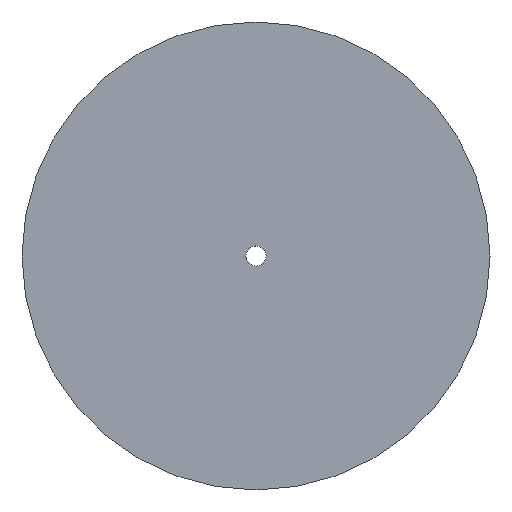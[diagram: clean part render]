
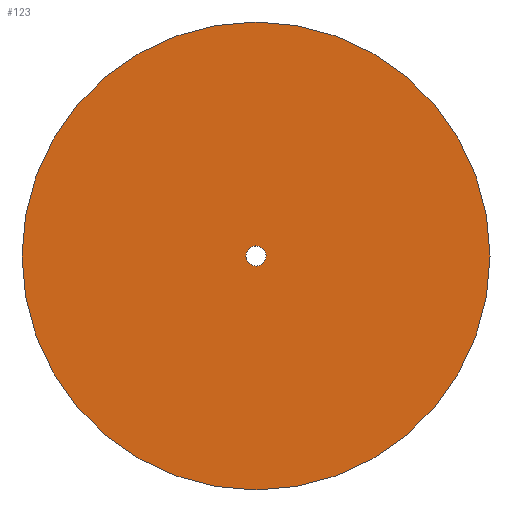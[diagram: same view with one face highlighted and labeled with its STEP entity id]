
A CAD part, top view. The second image highlights one B-rep face of the part: STEP entity #123.
In plain terms, the highlighted planar face has unit normal (0, 0, 1).
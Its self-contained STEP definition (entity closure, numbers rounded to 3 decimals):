
#62=CARTESIAN_POINT('Vertex',(-2.852,1.558,0.)) ;
#76=CARTESIAN_POINT('Vertex',(2.852,-1.558,0.)) ;
#79=CARTESIAN_POINT('Axis2P3D Location',(0.,0.,0.)) ;
#91=CARTESIAN_POINT('Axis2P3D Location',(0.,0.,0.)) ;
#96=CARTESIAN_POINT('Axis2P3D Location',(0.,0.,0.)) ;
#100=CARTESIAN_POINT('Vertex',(76.,0.,0.)) ;
#102=CARTESIAN_POINT('Vertex',(-76.,0.,0.)) ;
#105=CARTESIAN_POINT('Axis2P3D Location',(0.,0.,0.)) ;
#114=CARTESIAN_POINT('Axis2P3D Location',(0.,0.,0.)) ;
#80=DIRECTION('Axis2P3D Direction',(0.,-0.,-1.)) ;
#92=DIRECTION('Axis2P3D Direction',(0.,0.,1.)) ;
#93=DIRECTION('Axis2P3D XDirection',(1.,0.,0.)) ;
#97=DIRECTION('Axis2P3D Direction',(0.,0.,1.)) ;
#106=DIRECTION('Axis2P3D Direction',(0.,0.,1.)) ;
#115=DIRECTION('Axis2P3D Direction',(0.,0.,1.)) ;
#81=AXIS2_PLACEMENT_3D('Circle Axis2P3D',#79,#80,$) ;
#94=AXIS2_PLACEMENT_3D('Plane Axis2P3D',#91,#92,#93) ;
#98=AXIS2_PLACEMENT_3D('Circle Axis2P3D',#96,#97,$) ;
#107=AXIS2_PLACEMENT_3D('Circle Axis2P3D',#105,#106,$) ;
#116=AXIS2_PLACEMENT_3D('Circle Axis2P3D',#114,#115,$) ;
#111=ORIENTED_EDGE('',*,*,#104,.F.) ;
#112=ORIENTED_EDGE('',*,*,#109,.F.) ;
#120=ORIENTED_EDGE('',*,*,#118,.F.) ;
#121=ORIENTED_EDGE('',*,*,#83,.F.) ;
#122=FACE_BOUND('',#119,.T.) ;
#123=ADVANCED_FACE('PartBody',(#113,#122),#95,.T.) ;
#82=CIRCLE('generated circle',#81,3.25) ;
#99=CIRCLE('generated circle',#98,76.) ;
#108=CIRCLE('generated circle',#107,76.) ;
#117=CIRCLE('generated circle',#116,3.25) ;
#83=EDGE_CURVE('',#77,#63,#82,.F.) ;
#104=EDGE_CURVE('',#101,#103,#99,.F.) ;
#109=EDGE_CURVE('',#103,#101,#108,.F.) ;
#118=EDGE_CURVE('',#63,#77,#117,.T.) ;
#110=EDGE_LOOP('',(#111,#112)) ;
#119=EDGE_LOOP('',(#120,#121)) ;
#113=FACE_OUTER_BOUND('',#110,.T.) ;
#95=PLANE('',#94) ;
#63=VERTEX_POINT('',#62) ;
#77=VERTEX_POINT('',#76) ;
#101=VERTEX_POINT('',#100) ;
#103=VERTEX_POINT('',#102) ;
